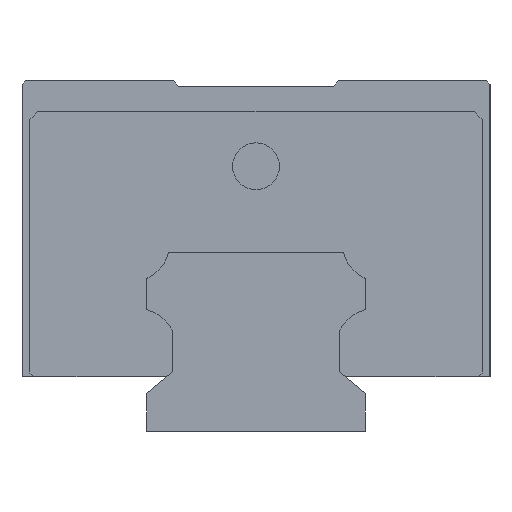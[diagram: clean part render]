
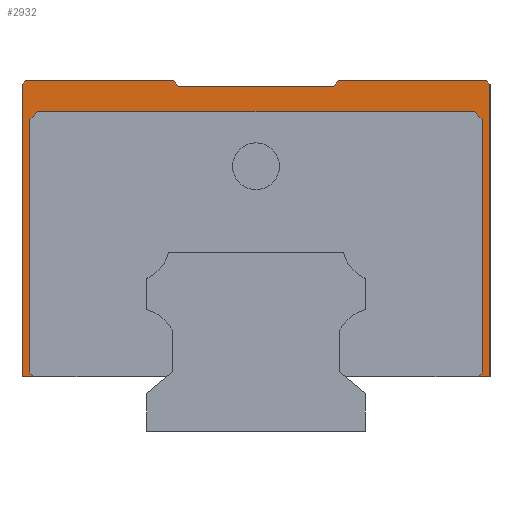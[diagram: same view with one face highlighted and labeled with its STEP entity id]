
A CAD part, left-side view. The second image highlights one B-rep face of the part: STEP entity #2932.
In plain terms, the highlighted planar face has unit normal (-1, 0, 0).
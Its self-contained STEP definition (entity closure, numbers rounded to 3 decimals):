
#24 = VECTOR ( 'NONE', #1715, 1000. ) ;
#44 = LINE ( 'NONE', #5426, #3406 ) ;
#56 = ORIENTED_EDGE ( 'NONE', *, *, #1486, .T. ) ;
#76 = CARTESIAN_POINT ( 'NONE',  ( -52.5, -29.5, 45. ) ) ;
#78 = VERTEX_POINT ( 'NONE', #5614 ) ;
#109 = CARTESIAN_POINT ( 'NONE',  ( -52.5, -10.629, 45. ) ) ;
#118 = ORIENTED_EDGE ( 'NONE', *, *, #2674, .T. ) ;
#187 = LINE ( 'NONE', #5568, #917 ) ;
#259 = CARTESIAN_POINT ( 'NONE',  ( -52.5, -28.5, 7. ) ) ;
#304 = VECTOR ( 'NONE', #5442, 1000. ) ;
#315 = VECTOR ( 'NONE', #2082, 1000. ) ;
#343 = CARTESIAN_POINT ( 'NONE',  ( -52.5, -28., 41. ) ) ;
#402 = LINE ( 'NONE', #4941, #1638 ) ;
#461 = DIRECTION ( 'NONE',  ( 0., -1., 0. ) ) ;
#468 = VECTOR ( 'NONE', #1945, 1000. ) ;
#497 = VECTOR ( 'NONE', #3846, 1000. ) ;
#523 = EDGE_CURVE ( 'NONE', #5795, #3873, #3089, .T. ) ;
#654 = DIRECTION ( 'NONE',  ( 0., 0., 1. ) ) ;
#683 = LINE ( 'NONE', #2492, #497 ) ;
#724 = CARTESIAN_POINT ( 'NONE',  ( -52.5, -29., 7.5 ) ) ;
#752 = EDGE_CURVE ( 'NONE', #5708, #3793, #4287, .T. ) ;
#799 = VECTOR ( 'NONE', #2586, 1000. ) ;
#812 = CARTESIAN_POINT ( 'NONE',  ( -52.5, -30., 7. ) ) ;
#877 = CARTESIAN_POINT ( 'NONE',  ( -52.5, 10.629, 45. ) ) ;
#913 = VECTOR ( 'NONE', #5694, 1000. ) ;
#917 = VECTOR ( 'NONE', #1987, 1000. ) ;
#951 = CARTESIAN_POINT ( 'NONE',  ( -52.5, -28., 41. ) ) ;
#967 = CARTESIAN_POINT ( 'NONE',  ( -52.5, -29., 40. ) ) ;
#971 = VERTEX_POINT ( 'NONE', #2354 ) ;
#983 = CARTESIAN_POINT ( 'NONE',  ( -52.5, -30., 45. ) ) ;
#1094 = LINE ( 'NONE', #1926, #1801 ) ;
#1190 = LINE ( 'NONE', #2130, #1454 ) ;
#1198 = CARTESIAN_POINT ( 'NONE',  ( -52.5, 30., 7. ) ) ;
#1314 = DIRECTION ( 'NONE',  ( 0., 1., 0. ) ) ;
#1376 = CARTESIAN_POINT ( 'NONE',  ( -52.5, -10., 44.25 ) ) ;
#1401 = DIRECTION ( 'NONE',  ( 0., 0.707, -0.707 ) ) ;
#1418 = CARTESIAN_POINT ( 'NONE',  ( -52.5, 28.5, 7. ) ) ;
#1434 = LINE ( 'NONE', #5518, #5470 ) ;
#1439 = CARTESIAN_POINT ( 'NONE',  ( -52.5, -30., 44.5 ) ) ;
#1454 = VECTOR ( 'NONE', #2630, 1000. ) ;
#1486 = EDGE_CURVE ( 'NONE', #4555, #4741, #187, .T. ) ;
#1504 = DIRECTION ( 'NONE',  ( 0., 0.707, 0.707 ) ) ;
#1638 = VECTOR ( 'NONE', #5321, 1000. ) ;
#1646 = LINE ( 'NONE', #2085, #799 ) ;
#1715 = DIRECTION ( 'NONE',  ( 0., -0.707, -0.707 ) ) ;
#1785 = DIRECTION ( 'NONE',  ( 1., 0., 0. ) ) ;
#1797 = CARTESIAN_POINT ( 'NONE',  ( -52.5, 30., 45. ) ) ;
#1801 = VECTOR ( 'NONE', #3282, 1000. ) ;
#1812 = CARTESIAN_POINT ( 'NONE',  ( -52.5, -30., 7. ) ) ;
#1860 = EDGE_CURVE ( 'NONE', #3793, #1971, #1094, .T. ) ;
#1926 = CARTESIAN_POINT ( 'NONE',  ( -52.5, 29., 40. ) ) ;
#1944 = CARTESIAN_POINT ( 'NONE',  ( -52.5, 10., 44.25 ) ) ;
#1945 = DIRECTION ( 'NONE',  ( 0., 0.707, 0.707 ) ) ;
#1964 = DIRECTION ( 'NONE',  ( 0., 0., -1. ) ) ;
#1971 = VERTEX_POINT ( 'NONE', #5181 ) ;
#1987 = DIRECTION ( 'NONE',  ( 0., 1., 0. ) ) ;
#2082 = DIRECTION ( 'NONE',  ( 0., 0.707, -0.707 ) ) ;
#2085 = CARTESIAN_POINT ( 'NONE',  ( -52.5, 30., 45. ) ) ;
#2130 = CARTESIAN_POINT ( 'NONE',  ( -52.5, 28., 41. ) ) ;
#2190 = VERTEX_POINT ( 'NONE', #259 ) ;
#2259 = ORIENTED_EDGE ( 'NONE', *, *, #5271, .T. ) ;
#2354 = CARTESIAN_POINT ( 'NONE',  ( -52.5, -29., 7.5 ) ) ;
#2462 = ORIENTED_EDGE ( 'NONE', *, *, #3764, .T. ) ;
#2471 = EDGE_CURVE ( 'NONE', #78, #5646, #44, .T. ) ;
#2492 = CARTESIAN_POINT ( 'NONE',  ( -52.5, 30., 7. ) ) ;
#2501 = DIRECTION ( 'NONE',  ( 0., 1., 0. ) ) ;
#2570 = ORIENTED_EDGE ( 'NONE', *, *, #4519, .T. ) ;
#2586 = DIRECTION ( 'NONE',  ( 0., -1., 0. ) ) ;
#2630 = DIRECTION ( 'NONE',  ( 0., -1., 0. ) ) ;
#2674 = EDGE_CURVE ( 'NONE', #4325, #4686, #2916, .T. ) ;
#2687 = VERTEX_POINT ( 'NONE', #109 ) ;
#2788 = ORIENTED_EDGE ( 'NONE', *, *, #2471, .T. ) ;
#2916 = LINE ( 'NONE', #5520, #468 ) ;
#2932 = ADVANCED_FACE ( 'NONE', ( #4468 ), #5782, .F. ) ;
#2985 = ORIENTED_EDGE ( 'NONE', *, *, #3928, .F. ) ;
#3077 = ORIENTED_EDGE ( 'NONE', *, *, #3212, .F. ) ;
#3089 = LINE ( 'NONE', #3919, #913 ) ;
#3147 = CARTESIAN_POINT ( 'NONE',  ( -52.5, -30., 45. ) ) ;
#3212 = EDGE_CURVE ( 'NONE', #4888, #2190, #3822, .T. ) ;
#3226 = LINE ( 'NONE', #983, #304 ) ;
#3282 = DIRECTION ( 'NONE',  ( 0., -0.707, 0.707 ) ) ;
#3325 = CARTESIAN_POINT ( 'NONE',  ( -52.5, 29., 40. ) ) ;
#3355 = VERTEX_POINT ( 'NONE', #951 ) ;
#3406 = VECTOR ( 'NONE', #1401, 1000. ) ;
#3570 = ORIENTED_EDGE ( 'NONE', *, *, #3629, .F. ) ;
#3629 = EDGE_CURVE ( 'NONE', #3873, #5646, #683, .T. ) ;
#3746 = CARTESIAN_POINT ( 'NONE',  ( -52.5, 28.5, 7. ) ) ;
#3764 = EDGE_CURVE ( 'NONE', #4582, #971, #5542, .T. ) ;
#3786 = ORIENTED_EDGE ( 'NONE', *, *, #4698, .T. ) ;
#3793 = VERTEX_POINT ( 'NONE', #3325 ) ;
#3822 = LINE ( 'NONE', #812, #4804 ) ;
#3846 = DIRECTION ( 'NONE',  ( 0., 0., 1. ) ) ;
#3873 = VERTEX_POINT ( 'NONE', #1198 ) ;
#3887 = VECTOR ( 'NONE', #654, 1000. ) ;
#3919 = CARTESIAN_POINT ( 'NONE',  ( -52.5, 11.769, 7. ) ) ;
#3928 = EDGE_CURVE ( 'NONE', #78, #4499, #1646, .T. ) ;
#4029 = ORIENTED_EDGE ( 'NONE', *, *, #5773, .F. ) ;
#4092 = EDGE_LOOP ( 'NONE', ( #5250, #5158, #5282, #4657, #4813, #4240, #2462, #2259, #3077, #4029, #118, #5815, #2570, #56, #3786, #2985, #2788, #3570 ) ) ;
#4094 = EDGE_CURVE ( 'NONE', #1971, #3355, #1190, .T. ) ;
#4140 = CARTESIAN_POINT ( 'NONE',  ( -52.5, -29., 40. ) ) ;
#4173 = VECTOR ( 'NONE', #1964, 1000. ) ;
#4240 = ORIENTED_EDGE ( 'NONE', *, *, #4470, .T. ) ;
#4256 = EDGE_CURVE ( 'NONE', #2687, #4686, #4918, .T. ) ;
#4287 = LINE ( 'NONE', #4607, #3887 ) ;
#4325 = VERTEX_POINT ( 'NONE', #1439 ) ;
#4391 = LINE ( 'NONE', #343, #24 ) ;
#4468 = FACE_OUTER_BOUND ( 'NONE', #4092, .T. ) ;
#4470 = EDGE_CURVE ( 'NONE', #3355, #4582, #4391, .T. ) ;
#4499 = VERTEX_POINT ( 'NONE', #877 ) ;
#4519 = EDGE_CURVE ( 'NONE', #2687, #4555, #402, .T. ) ;
#4555 = VERTEX_POINT ( 'NONE', #1376 ) ;
#4582 = VERTEX_POINT ( 'NONE', #967 ) ;
#4607 = CARTESIAN_POINT ( 'NONE',  ( -52.5, 29., 7.5 ) ) ;
#4657 = ORIENTED_EDGE ( 'NONE', *, *, #1860, .T. ) ;
#4686 = VERTEX_POINT ( 'NONE', #76 ) ;
#4698 = EDGE_CURVE ( 'NONE', #4741, #4499, #1434, .T. ) ;
#4701 = AXIS2_PLACEMENT_3D ( 'NONE', #3147, #1785, #1314 ) ;
#4741 = VERTEX_POINT ( 'NONE', #1944 ) ;
#4804 = VECTOR ( 'NONE', #2501, 1000. ) ;
#4805 = CARTESIAN_POINT ( 'NONE',  ( -52.5, 30., 44.5 ) ) ;
#4813 = ORIENTED_EDGE ( 'NONE', *, *, #4094, .T. ) ;
#4888 = VERTEX_POINT ( 'NONE', #1812 ) ;
#4918 = LINE ( 'NONE', #1797, #5677 ) ;
#4941 = CARTESIAN_POINT ( 'NONE',  ( -52.5, -10.629, 45. ) ) ;
#5052 = DIRECTION ( 'NONE',  ( 0., 0.643, 0.766 ) ) ;
#5158 = ORIENTED_EDGE ( 'NONE', *, *, #5551, .T. ) ;
#5181 = CARTESIAN_POINT ( 'NONE',  ( -52.5, 28., 41. ) ) ;
#5210 = CARTESIAN_POINT ( 'NONE',  ( -52.5, 29., 7.5 ) ) ;
#5250 = ORIENTED_EDGE ( 'NONE', *, *, #523, .F. ) ;
#5271 = EDGE_CURVE ( 'NONE', #971, #2190, #5689, .T. ) ;
#5282 = ORIENTED_EDGE ( 'NONE', *, *, #752, .T. ) ;
#5321 = DIRECTION ( 'NONE',  ( 0., 0.643, -0.766 ) ) ;
#5426 = CARTESIAN_POINT ( 'NONE',  ( -52.5, 29.5, 45. ) ) ;
#5442 = DIRECTION ( 'NONE',  ( 0., 0., -1. ) ) ;
#5470 = VECTOR ( 'NONE', #5052, 1000. ) ;
#5485 = VECTOR ( 'NONE', #1504, 1000. ) ;
#5518 = CARTESIAN_POINT ( 'NONE',  ( -52.5, 10., 44.25 ) ) ;
#5520 = CARTESIAN_POINT ( 'NONE',  ( -52.5, -30., 44.5 ) ) ;
#5542 = LINE ( 'NONE', #4140, #4173 ) ;
#5551 = EDGE_CURVE ( 'NONE', #5795, #5708, #5616, .T. ) ;
#5568 = CARTESIAN_POINT ( 'NONE',  ( -52.5, -10., 44.25 ) ) ;
#5614 = CARTESIAN_POINT ( 'NONE',  ( -52.5, 29.5, 45. ) ) ;
#5616 = LINE ( 'NONE', #3746, #5485 ) ;
#5646 = VERTEX_POINT ( 'NONE', #4805 ) ;
#5677 = VECTOR ( 'NONE', #461, 1000. ) ;
#5689 = LINE ( 'NONE', #724, #315 ) ;
#5694 = DIRECTION ( 'NONE',  ( 0., 1., 0. ) ) ;
#5708 = VERTEX_POINT ( 'NONE', #5210 ) ;
#5773 = EDGE_CURVE ( 'NONE', #4325, #4888, #3226, .T. ) ;
#5782 = PLANE ( 'NONE',  #4701 ) ;
#5795 = VERTEX_POINT ( 'NONE', #1418 ) ;
#5815 = ORIENTED_EDGE ( 'NONE', *, *, #4256, .F. ) ;
